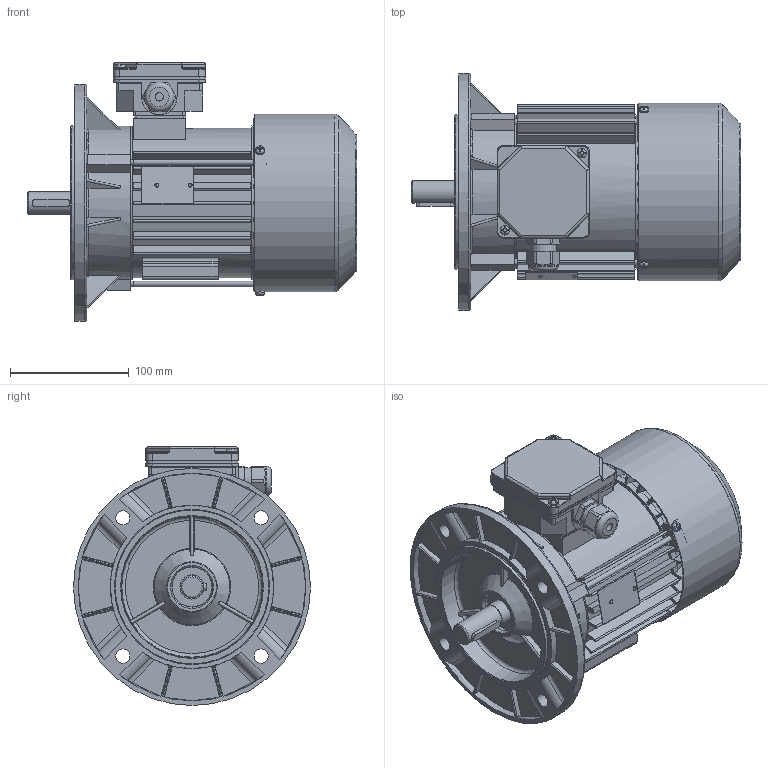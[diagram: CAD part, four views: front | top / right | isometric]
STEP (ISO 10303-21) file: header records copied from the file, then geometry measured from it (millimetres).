
FILE_DESCRIPTION(/* description */ ('Unknown'),/* implementation_level */ '2;1');
FILE_NAME(/* name */ 'SKh80-2B',/* time_stamp */ '2019-02-13T11:34:13+01:00',/* author */ ('Klaudiusz Szlosek'),/* organization */ ('BESEL S.A.'),/* preprocessor_version */ 'ST-DEVELOPER v16.7',/* originating_system */ 'DEX',/* authorisation */ $);
FILE_SCHEMA (('AUTOMOTIVE_DESIGN {1 0 10303 214 3 1 1}'));
Products named in the file (1): Czêœæ4
Bounding box: 277.78 x 200 x 218.5 mm (x, y, z)
Volume: 921412.3 mm3; surface area: 526040 mm2
Topology: 3 solids, 3 shells, 2384 faces, 6697 edges, 4373 vertices
Faces by surface type: plane 1194, cylinder 772, torus 180, cone 122, bspline 96, sphere 20
Full cylindrical faces by diameter (mm): 2 x2, 2.4 x2, 3.7 x8, 4 x4, 4.5 x1, 4.6 x3, 4.8 x2, 5 x5, 5.5 x3, 7 x1, 8 x9, 12 x4, 18.998 x1, 19.298 x1, 19.498 x1, 19.898 x1, 20.298 x2, 20.398 x2, 20.4 x2, 22.3 x1, 25 x1, 25.497 x1, 25.997 x2, 26.097 x1, 26.997 x1, 28.799 x4, 34 x2, 38.198 x4, 42 x2, 47 x3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
Entity records: 97517 total; most frequent: CARTESIAN_POINT 21159, ORIENTED_EDGE 12762, DIRECTION 11979, EDGE_CURVE 6381, AXIS2_PLACEMENT_3D 4352, VERTEX_POINT 4257, LINE 3275, VECTOR 3275
